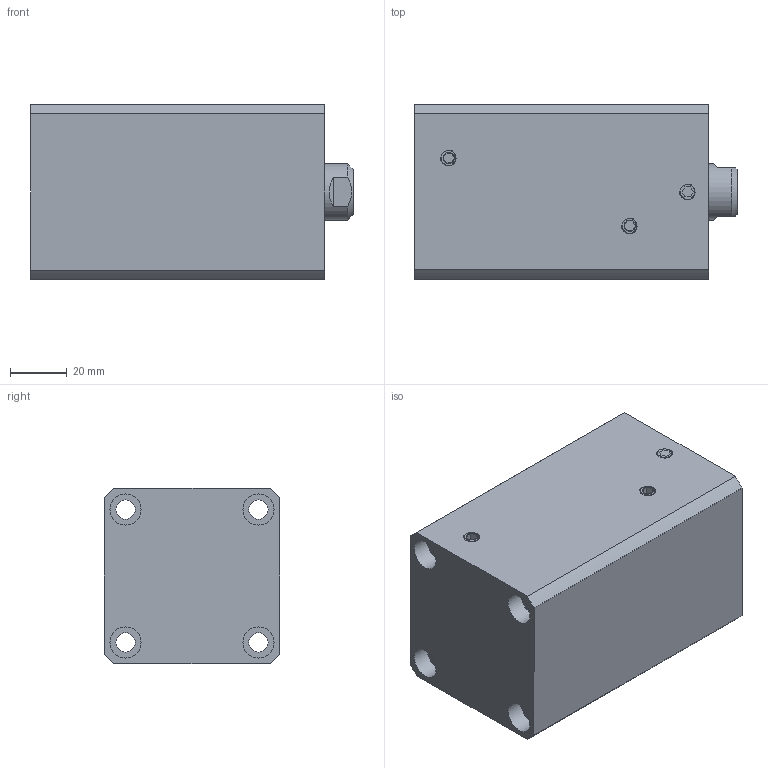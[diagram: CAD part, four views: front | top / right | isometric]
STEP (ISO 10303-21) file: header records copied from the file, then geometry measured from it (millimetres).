
FILE_DESCRIPTION(/* description */ (''),/* implementation_level */ '2;1');
FILE_NAME(/* name */ 'CHTB-sdma32x50n.stp',/* time_stamp */ '2022-04-29T17:10:39+08:00',/* author */ (''),/* organization */ (''),/* preprocessor_version */ 'ST-DEVELOPER v16.7',/* originating_system */ 'SIEMENS PLM Software NX 12.0',/* authorisation */ '');
FILE_SCHEMA (('AUTOMOTIVE_DESIGN { 1 0 10303 214 3 1 1 1 }'));
Length unit declared in the file: millimetre
Products named in the file (1): CHTB-sdma32x50n
Bounding box: 114 x 62 x 62 mm (x, y, z)
Volume: 314552.5 mm3; surface area: 74324.3 mm2
Topology: 5 solids, 6 shells, 585 faces, 1613 edges, 1087 vertices
Faces by surface type: plane 326, extrusion 117, cylinder 69, bspline 44, cone 17, torus 12
Full cylindrical faces by diameter (mm): 3 x2, 4 x4, 6.8 x4, 9 x2, 10 x7, 11 x8, 20 x2, 24.5 x1, 26 x2, 32 x4, 40 x1
Entity records: 36661 total; most frequent: CARTESIAN_POINT 20497, ORIENTED_EDGE 3036, DIRECTION 2104, EDGE_CURVE 1518, VERTEX_POINT 1050, VECTOR 1020, LINE 903, EDGE_LOOP 693
